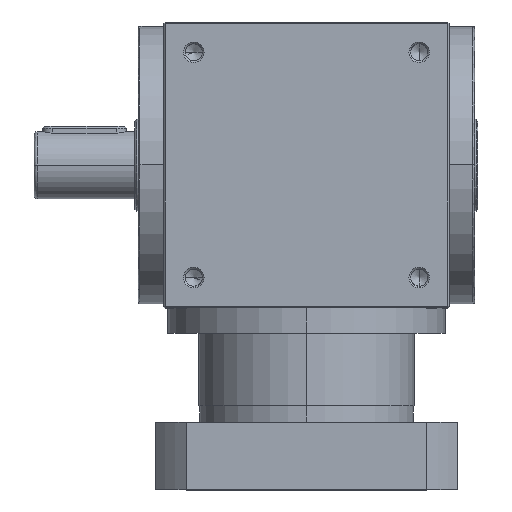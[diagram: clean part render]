
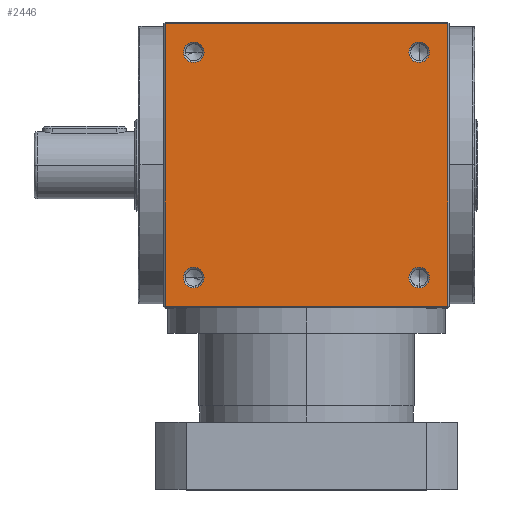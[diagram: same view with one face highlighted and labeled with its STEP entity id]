
A CAD part, top view. The second image highlights one B-rep face of the part: STEP entity #2446.
In plain terms, the highlighted planar face has unit normal (0, 0, 1).
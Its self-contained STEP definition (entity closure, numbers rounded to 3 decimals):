
#38 = CIRCLE ( 'NONE', #2703, 6.1 ) ;
#205 = DIRECTION ( 'NONE',  ( -1., 0., 0. ) ) ;
#282 = CARTESIAN_POINT ( 'NONE',  ( -67., 67., 85. ) ) ;
#356 = CARTESIAN_POINT ( 'NONE',  ( -73.1, 67., 85. ) ) ;
#365 = DIRECTION ( 'NONE',  ( 1., 0., 0. ) ) ;
#488 = EDGE_CURVE ( 'NONE', #1512, #4288, #1523, .T. ) ;
#576 = DIRECTION ( 'NONE',  ( 1., 0., 0. ) ) ;
#628 = DIRECTION ( 'NONE',  ( 1., 0., 0. ) ) ;
#700 = ORIENTED_EDGE ( 'NONE', *, *, #3457, .F. ) ;
#732 = CARTESIAN_POINT ( 'NONE',  ( 0., -84., 85. ) ) ;
#773 = ORIENTED_EDGE ( 'NONE', *, *, #6182, .T. ) ;
#854 = FACE_BOUND ( 'NONE', #8982, .T. ) ;
#887 = CARTESIAN_POINT ( 'NONE',  ( 0., 84., 85. ) ) ;
#1011 = ORIENTED_EDGE ( 'NONE', *, *, #2523, .T. ) ;
#1016 = VERTEX_POINT ( 'NONE', #1494 ) ;
#1188 = EDGE_LOOP ( 'NONE', ( #7255, #5719 ) ) ;
#1189 = FACE_OUTER_BOUND ( 'NONE', #3186, .T. ) ;
#1339 = CARTESIAN_POINT ( 'NONE',  ( -67., -67., 85. ) ) ;
#1369 = CARTESIAN_POINT ( 'NONE',  ( 67., 67., 85. ) ) ;
#1494 = CARTESIAN_POINT ( 'NONE',  ( 73.1, -67., 85. ) ) ;
#1502 = CARTESIAN_POINT ( 'NONE',  ( 84., 0., 85. ) ) ;
#1512 = VERTEX_POINT ( 'NONE', #6521 ) ;
#1523 = LINE ( 'NONE', #4239, #9095 ) ;
#1677 = CIRCLE ( 'NONE', #1915, 6.1 ) ;
#1802 = EDGE_LOOP ( 'NONE', ( #700, #3774 ) ) ;
#1820 = EDGE_CURVE ( 'NONE', #2691, #5486, #38, .T. ) ;
#1858 = VECTOR ( 'NONE', #6514, 1000. ) ;
#1915 = AXIS2_PLACEMENT_3D ( 'NONE', #1339, #7129, #9226 ) ;
#2003 = CIRCLE ( 'NONE', #8487, 6.1 ) ;
#2030 = CIRCLE ( 'NONE', #8765, 6.1 ) ;
#2068 = VECTOR ( 'NONE', #205, 1000. ) ;
#2077 = CARTESIAN_POINT ( 'NONE',  ( -84., -84., 85. ) ) ;
#2125 = VERTEX_POINT ( 'NONE', #9188 ) ;
#2207 = AXIS2_PLACEMENT_3D ( 'NONE', #3101, #3920, #8995 ) ;
#2446 = ADVANCED_FACE ( 'NONE', ( #1189, #8747, #854, #2630, #5952 ), #8466, .F. ) ;
#2523 = EDGE_CURVE ( 'NONE', #2941, #6598, #7823, .T. ) ;
#2544 = VERTEX_POINT ( 'NONE', #5870 ) ;
#2608 = AXIS2_PLACEMENT_3D ( 'NONE', #6399, #9209, #576 ) ;
#2630 = FACE_BOUND ( 'NONE', #1802, .T. ) ;
#2691 = VERTEX_POINT ( 'NONE', #356 ) ;
#2703 = AXIS2_PLACEMENT_3D ( 'NONE', #282, #5344, #9005 ) ;
#2897 = DIRECTION ( 'NONE',  ( 0., 1., 0. ) ) ;
#2941 = VERTEX_POINT ( 'NONE', #7359 ) ;
#3101 = CARTESIAN_POINT ( 'NONE',  ( -67., 67., 85. ) ) ;
#3138 = LINE ( 'NONE', #732, #1858 ) ;
#3167 = CARTESIAN_POINT ( 'NONE',  ( -60.9, 67., 85. ) ) ;
#3186 = EDGE_LOOP ( 'NONE', ( #5412, #1011, #773, #8233 ) ) ;
#3457 = EDGE_CURVE ( 'NONE', #7056, #2125, #5006, .T. ) ;
#3460 = VECTOR ( 'NONE', #2897, 1000. ) ;
#3550 = CIRCLE ( 'NONE', #2608, 6.1 ) ;
#3600 = CARTESIAN_POINT ( 'NONE',  ( 60.9, 67., 85. ) ) ;
#3668 = EDGE_CURVE ( 'NONE', #1016, #8619, #3550, .T. ) ;
#3774 = ORIENTED_EDGE ( 'NONE', *, *, #5330, .F. ) ;
#3827 = ORIENTED_EDGE ( 'NONE', *, *, #6232, .F. ) ;
#3920 = DIRECTION ( 'NONE',  ( 0., 0., 1. ) ) ;
#4110 = CIRCLE ( 'NONE', #2207, 6.1 ) ;
#4239 = CARTESIAN_POINT ( 'NONE',  ( -84., 0., 85. ) ) ;
#4288 = VERTEX_POINT ( 'NONE', #2077 ) ;
#4526 = DIRECTION ( 'NONE',  ( 1., 0., 0. ) ) ;
#4549 = DIRECTION ( 'NONE',  ( 0., 0., 1. ) ) ;
#5006 = CIRCLE ( 'NONE', #6203, 6.1 ) ;
#5113 = LINE ( 'NONE', #887, #2068 ) ;
#5207 = AXIS2_PLACEMENT_3D ( 'NONE', #8845, #6631, #4526 ) ;
#5262 = CARTESIAN_POINT ( 'NONE',  ( 84., 84., 85. ) ) ;
#5281 = EDGE_CURVE ( 'NONE', #8638, #2544, #2003, .T. ) ;
#5330 = EDGE_CURVE ( 'NONE', #2125, #7056, #1677, .T. ) ;
#5344 = DIRECTION ( 'NONE',  ( 0., 0., 1. ) ) ;
#5412 = ORIENTED_EDGE ( 'NONE', *, *, #8623, .T. ) ;
#5486 = VERTEX_POINT ( 'NONE', #3167 ) ;
#5719 = ORIENTED_EDGE ( 'NONE', *, *, #7736, .F. ) ;
#5870 = CARTESIAN_POINT ( 'NONE',  ( 73.1, 67., 85. ) ) ;
#5952 = FACE_BOUND ( 'NONE', #1188, .T. ) ;
#6045 = ORIENTED_EDGE ( 'NONE', *, *, #5281, .F. ) ;
#6182 = EDGE_CURVE ( 'NONE', #6598, #1512, #5113, .T. ) ;
#6203 = AXIS2_PLACEMENT_3D ( 'NONE', #6808, #4549, #365 ) ;
#6232 = EDGE_CURVE ( 'NONE', #5486, #2691, #4110, .T. ) ;
#6346 = AXIS2_PLACEMENT_3D ( 'NONE', #7826, #9342, #9279 ) ;
#6399 = CARTESIAN_POINT ( 'NONE',  ( 67., -67., 85. ) ) ;
#6514 = DIRECTION ( 'NONE',  ( 1., 0., 0. ) ) ;
#6521 = CARTESIAN_POINT ( 'NONE',  ( -84., 84., 85. ) ) ;
#6598 = VERTEX_POINT ( 'NONE', #5262 ) ;
#6631 = DIRECTION ( 'NONE',  ( 0., 0., 1. ) ) ;
#6808 = CARTESIAN_POINT ( 'NONE',  ( -67., -67., 85. ) ) ;
#7056 = VERTEX_POINT ( 'NONE', #8928 ) ;
#7061 = DIRECTION ( 'NONE',  ( 1., 0., 0. ) ) ;
#7129 = DIRECTION ( 'NONE',  ( 0., 0., 1. ) ) ;
#7210 = DIRECTION ( 'NONE',  ( 0., -1., 0. ) ) ;
#7255 = ORIENTED_EDGE ( 'NONE', *, *, #3668, .F. ) ;
#7359 = CARTESIAN_POINT ( 'NONE',  ( 84., -84., 85. ) ) ;
#7723 = ORIENTED_EDGE ( 'NONE', *, *, #1820, .F. ) ;
#7736 = EDGE_CURVE ( 'NONE', #8619, #1016, #2030, .T. ) ;
#7782 = DIRECTION ( 'NONE',  ( 0., 0., 1. ) ) ;
#7823 = LINE ( 'NONE', #1502, #3460 ) ;
#7826 = CARTESIAN_POINT ( 'NONE',  ( 0., 0., 85. ) ) ;
#7885 = DIRECTION ( 'NONE',  ( 0., 0., 1. ) ) ;
#7970 = EDGE_CURVE ( 'NONE', #2544, #8638, #9039, .T. ) ;
#8069 = ORIENTED_EDGE ( 'NONE', *, *, #7970, .F. ) ;
#8233 = ORIENTED_EDGE ( 'NONE', *, *, #488, .T. ) ;
#8466 = PLANE ( 'NONE',  #6346 ) ;
#8487 = AXIS2_PLACEMENT_3D ( 'NONE', #1369, #7782, #7061 ) ;
#8610 = CARTESIAN_POINT ( 'NONE',  ( 67., -67., 85. ) ) ;
#8619 = VERTEX_POINT ( 'NONE', #8693 ) ;
#8623 = EDGE_CURVE ( 'NONE', #4288, #2941, #3138, .T. ) ;
#8638 = VERTEX_POINT ( 'NONE', #3600 ) ;
#8693 = CARTESIAN_POINT ( 'NONE',  ( 60.9, -67., 85. ) ) ;
#8747 = FACE_BOUND ( 'NONE', #8944, .T. ) ;
#8765 = AXIS2_PLACEMENT_3D ( 'NONE', #8610, #7885, #628 ) ;
#8845 = CARTESIAN_POINT ( 'NONE',  ( 67., 67., 85. ) ) ;
#8928 = CARTESIAN_POINT ( 'NONE',  ( -60.9, -67., 85. ) ) ;
#8944 = EDGE_LOOP ( 'NONE', ( #3827, #7723 ) ) ;
#8982 = EDGE_LOOP ( 'NONE', ( #8069, #6045 ) ) ;
#8995 = DIRECTION ( 'NONE',  ( 1., 0., 0. ) ) ;
#9005 = DIRECTION ( 'NONE',  ( 1., 0., 0. ) ) ;
#9039 = CIRCLE ( 'NONE', #5207, 6.1 ) ;
#9095 = VECTOR ( 'NONE', #7210, 1000. ) ;
#9188 = CARTESIAN_POINT ( 'NONE',  ( -73.1, -67., 85. ) ) ;
#9209 = DIRECTION ( 'NONE',  ( 0., 0., 1. ) ) ;
#9226 = DIRECTION ( 'NONE',  ( 1., 0., 0. ) ) ;
#9279 = DIRECTION ( 'NONE',  ( -1., 0., 0. ) ) ;
#9342 = DIRECTION ( 'NONE',  ( 0., 0., -1. ) ) ;
